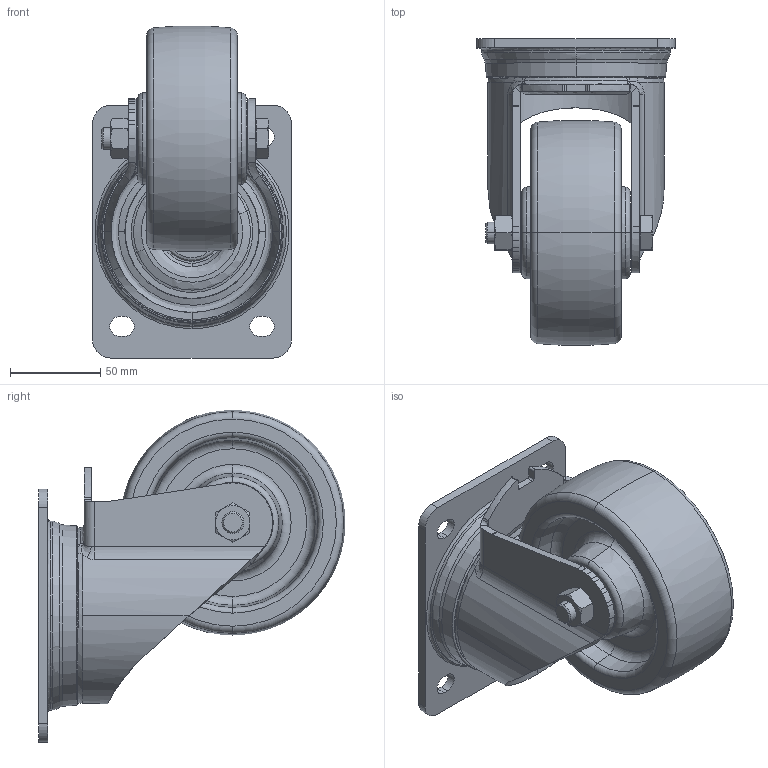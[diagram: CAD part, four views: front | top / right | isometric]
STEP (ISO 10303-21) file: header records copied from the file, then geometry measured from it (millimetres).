
FILE_DESCRIPTION (( 'STEP AP214' ), '1' );
FILE_NAME ('LKX-SPO_127G_587048-214.step', '2013-03-02T14:05:45', ( '' ), ( '' ), 'SwSTEP 2.0', 'SolidWorks 2012', '' );
FILE_SCHEMA (( 'AUTOMOTIVE_DESIGN' ));
Length unit declared in the file: millimetre
Products named in the file (5): SPO_G15_SPO_127_20G_534412; SPO-G_G15_SPO_127_20G_534412; GH-LKX_127_G15; AM_LKX_12x70x4_D20; LKX-SPO_127G_587048-214
Assembly tree (4 placements, depth 3):
  LKX-SPO_127G_587048-214
    AM_LKX_12x70x4_D20
    GH-LKX_127_G15
    SPO_G15_SPO_127_20G_534412
      SPO-G_G15_SPO_127_20G_534412
Bounding box: 110 x 169.78 x 183.87 mm (x, y, z)
Volume: 740207.8 mm3; surface area: 147462 mm2
Topology: 3 solids, 3 shells, 826 faces, 2156 edges, 1395 vertices
Faces by surface type: plane 374, bspline 315, cone 67, cylinder 48, torus 22
Entity records: 49263 total; most frequent: CARTESIAN_POINT 21836, ORIENTED_EDGE 4308, DIRECTION 2799, EDGE_CURVE 2154, VERTEX_POINT 1395, VECTOR 1215, LINE 1215, EDGE_LOOP 899
